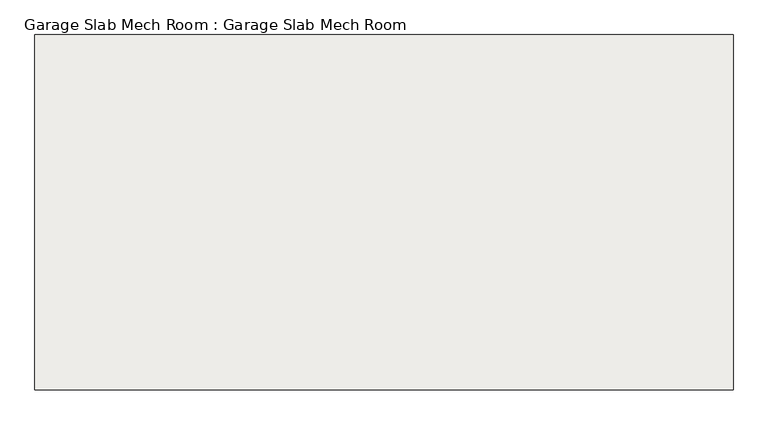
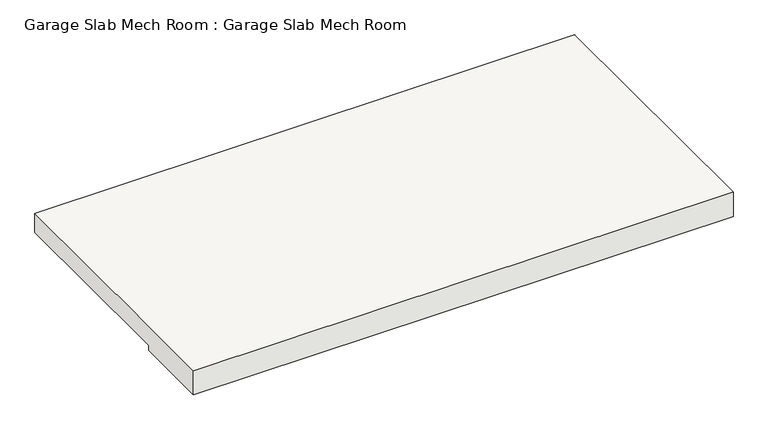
"""IFC4 building model written with IfcOpenShell, lengths in millimetres: slab geometry, Garage Slab Mech Room : Garage Slab Mech Room."""

from ifc_helpers import new_model, si_unit, origin, place, context, project, spatial, faceted_brep, source, transform, mapped, element, save


def garage_slab_mech_room_garage_slab_mech_room_9d17ae99(model_context):
    return source(origin(), model_context, "Body", "Brep", [
        faceted_brep([(-12954.1241137, 12647.7160916, -152.4), (-9456.0678637, 12647.7160916, -152.4), (-9456.0678637, 12647.7160916, -246.888), (-12954.1241137, 12647.7160916, -281.8877404), (-12954.1241137, 10868.1942801, -152.4), (-12954.1241137, 10868.1942801, -281.8877404), (-12954.1241137, 10868.1942801, -318.0567253), (-9456.0678637, 10868.1942801, -318.0567253), (-9456.0678637, 10868.1942801, -246.888), (-9456.0678637, 10868.1942801, -152.4), (-12954.1241137, 11425.7349287, -152.4), (-9456.0678637, 12644.9349287, -152.4), (-9456.0678637, 11369.8442801, -318.0567253), (-9456.0678637, 11369.8442801, -246.888), (-9456.0678637, 11441.3883247, -246.888), (-9456.0678637, 12644.9349287, -246.888), (-12954.1241137, 11369.8442801, -318.0567253), (-12954.1241137, 11441.3883247, -281.8877404), (-12954.1241137, 11425.7349287, -281.8877404), (-12954.1241137, 11369.8442801, -281.8877404)], [[[0, 1, 2, 3]], [[4, 5, 6, 7, 8, 9]], [[1, 0, 10, 4, 9, 11]], [[9, 8, 7, 12, 13, 14, 15, 2, 1, 11]], [[7, 6, 16, 12]], [[6, 5, 4, 10, 0, 3, 17, 18, 19, 16]], [[19, 13, 12, 16]], [[13, 19, 18, 17, 3, 2, 15, 14]]]),
    ])


if __name__ == "__main__":
    model = new_model("IFC4")
    model_context = context("Model", 3, world=origin())
    ifc_project = project(units=[si_unit("LENGTHUNIT", "METRE", prefix="MILLI")], contexts=[model_context])
    site = spatial("IfcSite", under=ifc_project)
    building = spatial("IfcBuilding", under=site)
    placement = place(None, origin())
    garage_slab_mech_room_garage_slab_mech_room_shape = garage_slab_mech_room_garage_slab_mech_room_9d17ae99(model_context)
    element("IfcSlab", 1, ObjectType="Garage Slab Mech Room : Garage Slab Mech Room", at=placement, inside=building, context=model_context, shape_type="MappedRepresentation", body=[
        mapped(garage_slab_mech_room_garage_slab_mech_room_shape, transform((0.0, 0.0, 0.0), x_axis=(1.0, 0.0, 0.0), y_axis=(0.0, 1.0, 0.0), z_axis=(0.0, 0.0, 1.0))),
    ])
    save(model, "model.ifc")
